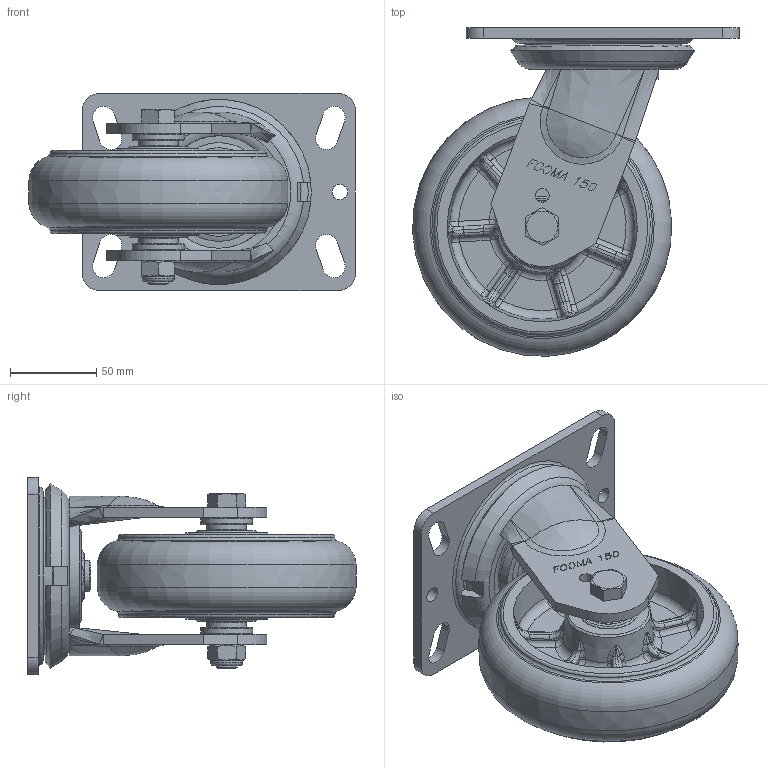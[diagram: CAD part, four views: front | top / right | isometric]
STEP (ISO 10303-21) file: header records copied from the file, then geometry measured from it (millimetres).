
FILE_DESCRIPTION(/* description */ (''),/* implementation_level */ '2;1');
FILE_NAME(/* name */ 'E:\★.DWG\PMH-SERIES\3D\홈페이지용\20180122-STEP\PMH-150-ASF-MUD.stp',/* time_stamp */ '2018-01-22T14:53:11+09:00',/* author */ ('장용하'),/* organization */ (''),/* preprocessor_version */ 'ST-DEVELOPER v16.13',/* originating_system */ 'Autodesk Inventor 2018',/* authorisation */ '');
FILE_SCHEMA (('AUTOMOTIVE_DESIGN { 1 0 10303 214 3 1 1 }'));
Length unit declared in the file: millimetre
Products named in the file (1): PMH-150-ASF-MUD_Shrinkwrap_1
Bounding box: 188.94 x 189.94 x 114 mm (x, y, z)
Volume: 836249.4 mm3; surface area: 156967 mm2
Topology: 3 solids, 3 shells, 1603 faces, 4158 edges, 2612 vertices
Faces by surface type: plane 992, bspline 345, cylinder 179, torus 57, cone 30
Full cylindrical faces by diameter (mm): 8 x2, 9 x2, 12 x1, 18 x1, 18.5 x1, 21.667 x2, 21.867 x2, 22.9 x2, 28.133 x2, 28.333 x2, 30 x2, 35 x2, 65 x1, 90.814 x1, 125 x2
Entity records: 58149 total; most frequent: CARTESIAN_POINT 19249, ORIENTED_EDGE 8114, DIRECTION 6900, EDGE_CURVE 4057, LINE 2750, VECTOR 2750, VERTEX_POINT 2592, AXIS2_PLACEMENT_3D 2075
